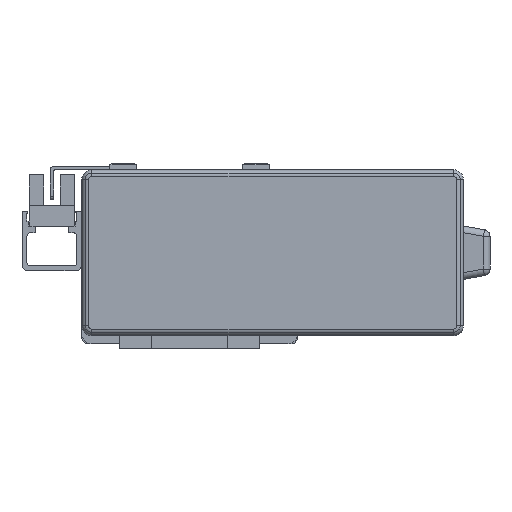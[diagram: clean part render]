
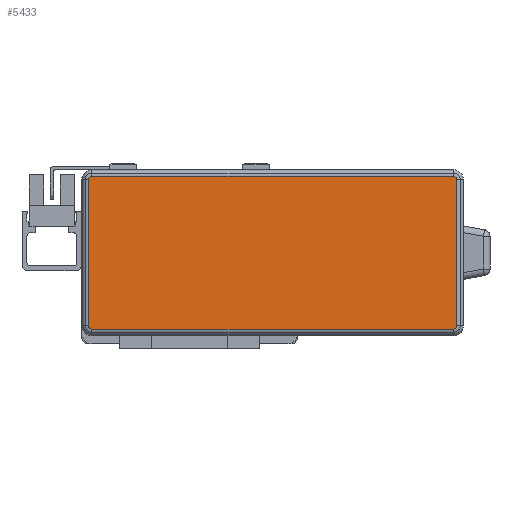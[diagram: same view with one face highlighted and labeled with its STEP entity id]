
A CAD part, left-side view. The second image highlights one B-rep face of the part: STEP entity #5433.
In plain terms, the highlighted planar face has unit normal (-1, 0, 0) as drawn and (0, 0, 1) by its records, which use the part's own axes.
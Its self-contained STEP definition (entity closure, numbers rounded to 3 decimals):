
#312 = ORIENTED_EDGE ( 'NONE', *, *, #8196, .T. ) ;
#535 = CARTESIAN_POINT ( 'NONE',  ( -55.5, 22., 40. ) ) ;
#1238 = DIRECTION ( 'NONE',  ( -1., 0., 0. ) ) ;
#1506 = CARTESIAN_POINT ( 'NONE',  ( 0., -23., 40. ) ) ;
#1749 = EDGE_CURVE ( 'NONE', #21580, #22041, #23748, .T. ) ;
#2191 = FACE_OUTER_BOUND ( 'NONE', #24160, .T. ) ;
#2434 = AXIS2_PLACEMENT_3D ( 'NONE', #22376, #9607, #24514 ) ;
#3081 = ORIENTED_EDGE ( 'NONE', *, *, #19114, .T. ) ;
#3225 = AXIS2_PLACEMENT_3D ( 'NONE', #26719, #14007, #1238 ) ;
#3295 = DIRECTION ( 'NONE',  ( 0., -1., 0. ) ) ;
#3471 = DIRECTION ( 'NONE',  ( 0., 0., -1. ) ) ;
#3969 = VECTOR ( 'NONE', #14613, 1000. ) ;
#4574 = CIRCLE ( 'NONE', #9311, 1. ) ;
#4826 = LINE ( 'NONE', #16698, #26805 ) ;
#4851 = CIRCLE ( 'NONE', #9237, 1. ) ;
#5433 = ADVANCED_FACE ( 'NONE', ( #2191 ), #22583, .F. ) ;
#5463 = CARTESIAN_POINT ( 'NONE',  ( 54.5, 22., 40. ) ) ;
#6711 = VECTOR ( 'NONE', #16409, 1000. ) ;
#7567 = CARTESIAN_POINT ( 'NONE',  ( 55.5, -22., 40. ) ) ;
#7595 = DIRECTION ( 'NONE',  ( -1., 0., 0. ) ) ;
#7635 = ORIENTED_EDGE ( 'NONE', *, *, #27391, .T. ) ;
#7775 = CIRCLE ( 'NONE', #2434, 1. ) ;
#8196 = EDGE_CURVE ( 'NONE', #20022, #27138, #12581, .T. ) ;
#8266 = CARTESIAN_POINT ( 'NONE',  ( -54.5, 23., 40. ) ) ;
#8847 = CARTESIAN_POINT ( 'NONE',  ( 55.5, 22., 40. ) ) ;
#9237 = AXIS2_PLACEMENT_3D ( 'NONE', #25191, #12448, #27303 ) ;
#9311 = AXIS2_PLACEMENT_3D ( 'NONE', #5463, #20388, #7595 ) ;
#9607 = DIRECTION ( 'NONE',  ( 0., 0., 1. ) ) ;
#12448 = DIRECTION ( 'NONE',  ( 0., 0., 1. ) ) ;
#12581 = LINE ( 'NONE', #18259, #23244 ) ;
#12948 = EDGE_CURVE ( 'NONE', #19398, #18338, #4574, .T. ) ;
#13904 = CARTESIAN_POINT ( 'NONE',  ( -54.5, -23., 40. ) ) ;
#14007 = DIRECTION ( 'NONE',  ( 0., 0., 1. ) ) ;
#14111 = CARTESIAN_POINT ( 'NONE',  ( 0., 0., 40. ) ) ;
#14573 = DIRECTION ( 'NONE',  ( -1., 0., 0. ) ) ;
#14613 = DIRECTION ( 'NONE',  ( 0., 1., 0. ) ) ;
#15682 = EDGE_CURVE ( 'NONE', #23023, #20022, #7775, .T. ) ;
#16300 = CIRCLE ( 'NONE', #3225, 1. ) ;
#16409 = DIRECTION ( 'NONE',  ( 1., 0., 0. ) ) ;
#16698 = CARTESIAN_POINT ( 'NONE',  ( 0., 23., 40. ) ) ;
#17274 = CARTESIAN_POINT ( 'NONE',  ( 54.5, 23., 40. ) ) ;
#18259 = CARTESIAN_POINT ( 'NONE',  ( -55.5, 0., 40. ) ) ;
#18338 = VERTEX_POINT ( 'NONE', #17274 ) ;
#18408 = DIRECTION ( 'NONE',  ( -1., 0., 0. ) ) ;
#19114 = EDGE_CURVE ( 'NONE', #22041, #19119, #16300, .T. ) ;
#19119 = VERTEX_POINT ( 'NONE', #7567 ) ;
#19398 = VERTEX_POINT ( 'NONE', #8847 ) ;
#19826 = ORIENTED_EDGE ( 'NONE', *, *, #15682, .T. ) ;
#20022 = VERTEX_POINT ( 'NONE', #535 ) ;
#20388 = DIRECTION ( 'NONE',  ( 0., 0., 1. ) ) ;
#21043 = CARTESIAN_POINT ( 'NONE',  ( 55.5, 0., 40. ) ) ;
#21580 = VERTEX_POINT ( 'NONE', #13904 ) ;
#21659 = LINE ( 'NONE', #21043, #3969 ) ;
#21755 = CARTESIAN_POINT ( 'NONE',  ( 54.5, -23., 40. ) ) ;
#21874 = ORIENTED_EDGE ( 'NONE', *, *, #24687, .T. ) ;
#22041 = VERTEX_POINT ( 'NONE', #21755 ) ;
#22226 = CARTESIAN_POINT ( 'NONE',  ( -55.5, -22., 40. ) ) ;
#22376 = CARTESIAN_POINT ( 'NONE',  ( -54.5, 22., 40. ) ) ;
#22583 = PLANE ( 'NONE',  #27356 ) ;
#23023 = VERTEX_POINT ( 'NONE', #8266 ) ;
#23244 = VECTOR ( 'NONE', #3295, 1000. ) ;
#23748 = LINE ( 'NONE', #1506, #6711 ) ;
#24160 = EDGE_LOOP ( 'NONE', ( #26959, #3081, #21874, #27122, #7635, #19826, #312, #26968 ) ) ;
#24514 = DIRECTION ( 'NONE',  ( -1., 0., 0. ) ) ;
#24687 = EDGE_CURVE ( 'NONE', #19119, #19398, #21659, .T. ) ;
#25191 = CARTESIAN_POINT ( 'NONE',  ( -54.5, -22., 40. ) ) ;
#26719 = CARTESIAN_POINT ( 'NONE',  ( 54.5, -22., 40. ) ) ;
#26805 = VECTOR ( 'NONE', #14573, 1000. ) ;
#26943 = EDGE_CURVE ( 'NONE', #27138, #21580, #4851, .T. ) ;
#26959 = ORIENTED_EDGE ( 'NONE', *, *, #1749, .T. ) ;
#26968 = ORIENTED_EDGE ( 'NONE', *, *, #26943, .T. ) ;
#27122 = ORIENTED_EDGE ( 'NONE', *, *, #12948, .T. ) ;
#27138 = VERTEX_POINT ( 'NONE', #22226 ) ;
#27303 = DIRECTION ( 'NONE',  ( -1., 0., 0. ) ) ;
#27356 = AXIS2_PLACEMENT_3D ( 'NONE', #14111, #3471, #18408 ) ;
#27391 = EDGE_CURVE ( 'NONE', #18338, #23023, #4826, .T. ) ;
